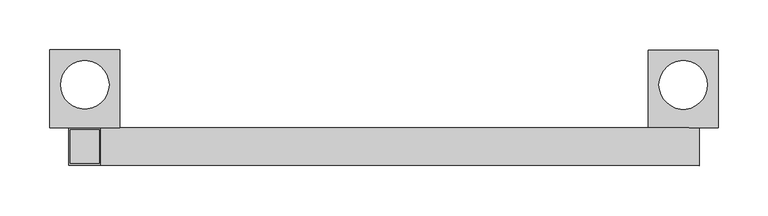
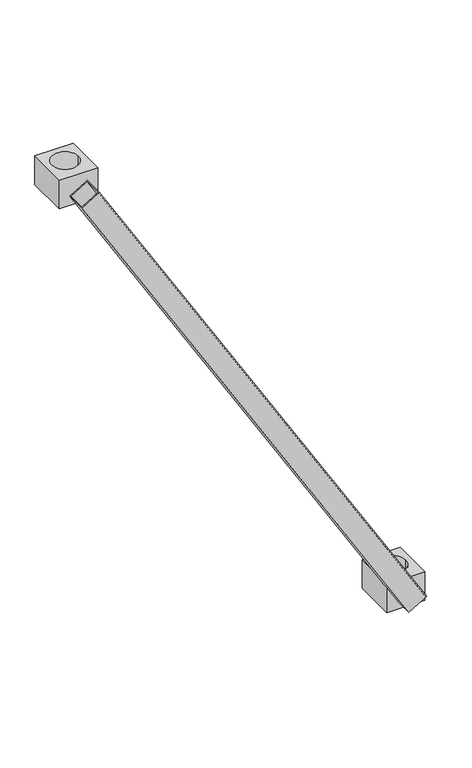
"""IFC4 building model written with IfcOpenShell, lengths in millimetres: proxy geometry, AK_アルバトロスAK伸縮斜材 : H1350×L0600."""

from ifc_helpers import new_model, si_unit, point, frame, frame_2d, origin, place, context, project, spatial, polyline, circle_curve, trimmed, segment, composite_curve, outline, extrude, source, transform, mapped, element, save


def generic_models_7b9bd429(model_context):
    return source(origin(), model_context, "Body", "SweptSolid", [
        extrude(outline(polyline([(0.0, 0.0), (0.0, -38.0), (-38.0, -38.0), (-38.0, 0.0), (0.0, 0.0)]), holes=[polyline([(-2.0, -2.0), (-36.0, -2.0), (-36.0, -36.0), (-2.0, -36.0), (-2.0, -2.0)])]), frame((16.2609517, 19.0, 9.8275862), z_axis=(-0.5172413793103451, 0.0, 0.8558395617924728), x_axis=(0.8558395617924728, 0.0, 0.5172413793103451)), (0.0, 0.0, 1.0), 1160.0),
        extrude(outline(polyline([(35.0, 96.8842695), (35.0, 19.0), (-35.0, 19.0), (-35.0, 96.8842695), (35.0, 96.8842695)]), holes=[composite_curve([segment(trimmed(circle_curve(frame_2d((0.0, 61.8842695)), 24.3), [point((24.3, 61.8842695))], [point((-24.3, 61.8842695))], True, "CARTESIAN"), True, "CONTINUOUS"), segment(trimmed(circle_curve(frame_2d((0.0, 61.8842695)), 24.3), [point((-24.3, 61.8842695))], [point((24.3, 61.8842695))], True, "CARTESIAN"), True, "CONTINUOUS")], self_intersect=False)]), frame((0.0, 0.0, -27.7559086), z_axis=(0.0, 0.0, 1.0), x_axis=(1.0, 0.0, 0.0)), (0.0, 0.0, 1.0), 55.5118171),
        extrude(outline(polyline([(-565.0, 19.0), (-635.0, 19.0), (-635.0, 96.8842695), (-565.0, 96.8842695), (-565.0, 19.0)]), holes=[composite_curve([segment(trimmed(circle_curve(frame_2d((-600.0, 61.8842695)), 24.3), [point((-575.7, 61.8842695))], [point((-624.3, 61.8842695))], True, "CARTESIAN"), True, "CONTINUOUS"), segment(trimmed(circle_curve(frame_2d((-600.0, 61.8842695)), 24.3), [point((-624.3, 61.8842695))], [point((-575.7, 61.8842695))], True, "CARTESIAN"), True, "CONTINUOUS")], self_intersect=False)]), frame((0.0, 0.0, 965.0179831), z_axis=(0.0, 0.0, 1.0), x_axis=(1.0, 0.0, 0.0)), (0.0, 0.0, 1.0), 55.5118171),
    ])


if __name__ == "__main__":
    model = new_model("IFC4")
    model_context = context("Model", 3, world=origin())
    ifc_project = project(units=[si_unit("LENGTHUNIT", "METRE", prefix="MILLI")], contexts=[model_context])
    site = spatial("IfcSite", under=ifc_project)
    building = spatial("IfcBuilding", under=site)
    placement = place(None, origin())
    generic_models_shape = generic_models_7b9bd429(model_context)
    element("IfcBuildingElementProxy", 1, Name="AK_アルバトロスAK伸縮斜材 : H1350×L0600", ObjectType="AK_アルバトロスAK伸縮斜材 : H1350×L0600", at=placement, inside=building, context=model_context, shape_type="MappedRepresentation", body=[
        mapped(generic_models_shape, transform((0.0, 0.0, 0.0), x_axis=(1.0, 0.0, 0.0), y_axis=(0.0, 1.0, 0.0), z_axis=(0.0, 0.0, 1.0))),
    ])
    save(model, "model.ifc")
